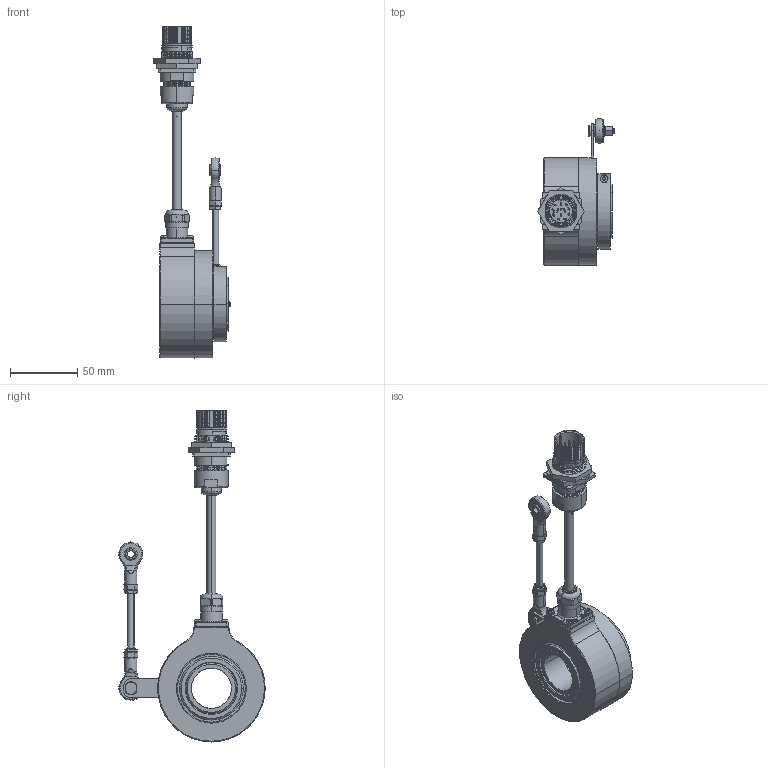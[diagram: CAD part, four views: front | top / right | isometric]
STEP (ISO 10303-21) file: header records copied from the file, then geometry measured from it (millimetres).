
FILE_DESCRIPTION (( 'STEP AP203' ), '1' );
FILE_NAME ('K80I.OXX.XXXXX.XH26830.6XR14.XXXX.step', '2025-12-09T12:19:46', ( '' ), ( '' ), 'SwSTEP 2.0', 'SolidWorks 2021', '' );
FILE_SCHEMA (( 'CONFIG_CONTROL_DESIGN' ));
Length unit declared in the file: millimetre
Products named in the file (1): K80I.OXX.XXXXX.XH26830.6XR14.XXXX
Bounding box: 57.02 x 109.11 x 247.43 mm (x, y, z)
Volume: 229401.5 mm3; surface area: 101742.2 mm2
Topology: 41 solids, 41 shells, 2255 faces, 5757 edges, 3655 vertices
Faces by surface type: cylinder 759, plane 716, cone 442, bspline 176, torus 106, sphere 56
Entity records: 77039 total; most frequent: CARTESIAN_POINT 23906, ORIENTED_EDGE 11390, DIRECTION 10832, EDGE_CURVE 5695, AXIS2_PLACEMENT_3D 4269, VERTEX_POINT 3651, EDGE_LOOP 2454, VECTOR 2294
